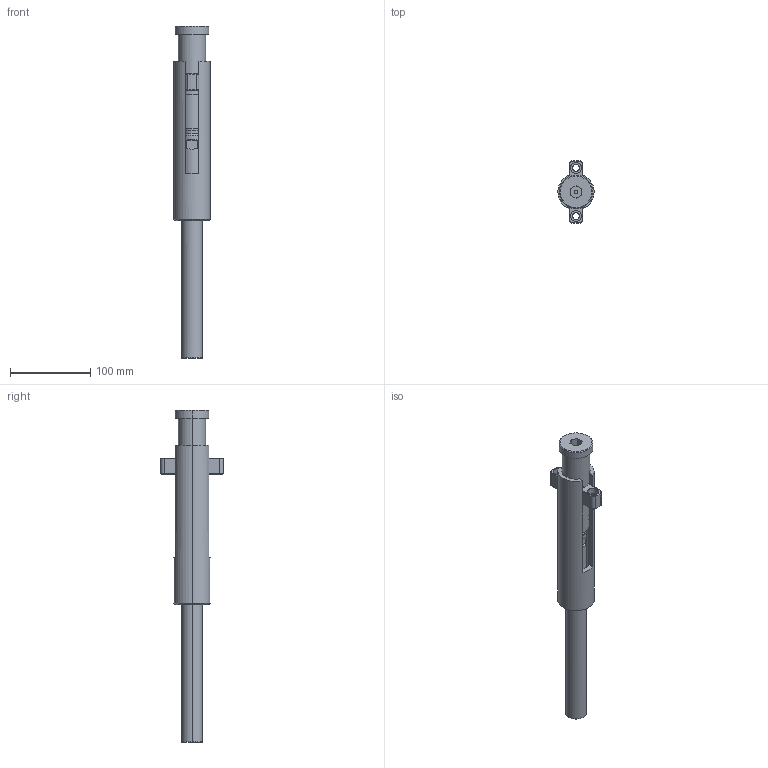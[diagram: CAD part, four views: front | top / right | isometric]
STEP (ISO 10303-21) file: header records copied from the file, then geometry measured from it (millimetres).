
FILE_DESCRIPTION (( 'STEP AP203' ), '1' );
FILE_NAME ('DKL4522.STEP', '2013-08-26T11:35:14', ( '' ), ( '' ), 'SwSTEP 2.0', 'SolidWorks 2013', '' );
FILE_SCHEMA (( 'CONFIG_CONTROL_DESIGN' ));
Length unit declared in the file: millimetre
Products named in the file (9): DKL4051; DKL4021; DKL4041; DKL4082; DKL4072; DKL4011; DKL4522; DKL4031; DKL4062
Assembly tree (11 placements, depth 2):
  DKL4522
    DKL4031
    DKL4062  x4
    DKL4051
    DKL4021
    DKL4041
    DKL4082
    DKL4072
    DKL4011
Bounding box: 45 x 77.93 x 413 mm (x, y, z)
Volume: 379256 mm3; surface area: 109055.5 mm2
Topology: 11 solids, 11 shells, 469 faces, 1103 edges, 666 vertices
Faces by surface type: plane 156, cylinder 140, cone 117, torus 54, bspline 2
Entity records: 15836 total; most frequent: CARTESIAN_POINT 5640, DIRECTION 2083, ORIENTED_EDGE 1822, EDGE_CURVE 911, AXIS2_PLACEMENT_3D 842, VERTEX_POINT 555, CIRCLE 439, EDGE_LOOP 434
